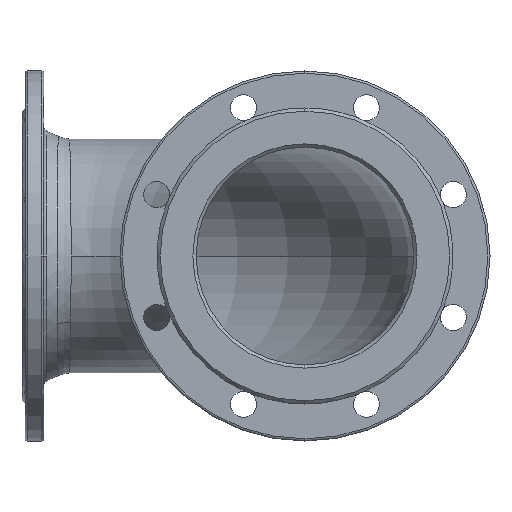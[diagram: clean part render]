
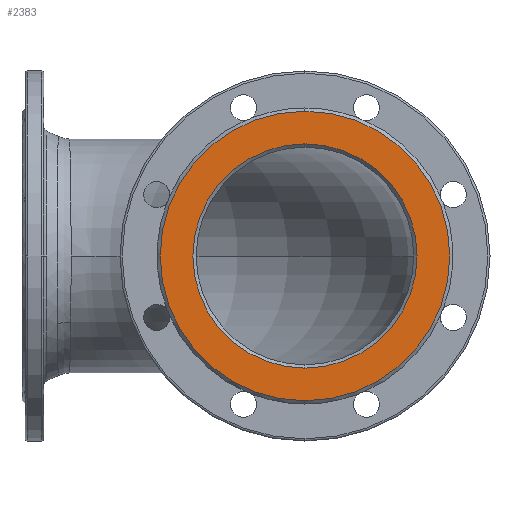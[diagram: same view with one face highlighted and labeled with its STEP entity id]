
A CAD part, left-side view. The second image highlights one B-rep face of the part: STEP entity #2383.
In plain terms, the highlighted planar face has unit normal (-1, 0, 0).
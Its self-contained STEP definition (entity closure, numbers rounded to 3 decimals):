
#155 = EDGE_CURVE ( 'Defeatured_0_5+Defeatured_0_70+Defeatured_0_70+Defeatured_0_70', #1714, #4766, #5353, .T. ) ;
#268 = DIRECTION ( 'NONE',  ( -1., 0., 0. ) ) ;
#282 = AXIS2_PLACEMENT_3D ( 'NONE', #5501, #5044, #1078 ) ;
#455 = PLANE ( 'NONE',  #6163 ) ;
#485 = CIRCLE ( 'NONE', #690, 103. ) ;
#646 = CARTESIAN_POINT ( 'NONE',  ( 0., 0., 0. ) ) ;
#690 = AXIS2_PLACEMENT_3D ( 'NONE', #4147, #5084, #6116 ) ;
#756 = EDGE_CURVE ( 'Defeatured_0_5+Defeatured_0_6+Defeatured_0_6+Defeatured_0_6', #5168, #5236, #1444, .T. ) ;
#814 = AXIS2_PLACEMENT_3D ( 'NONE', #1255, #268, #6196 ) ;
#1078 = DIRECTION ( 'NONE',  ( 0., 0., -1. ) ) ;
#1188 = CARTESIAN_POINT ( 'NONE',  ( 0., 0., -133. ) ) ;
#1255 = CARTESIAN_POINT ( 'NONE',  ( 0., 0., 0. ) ) ;
#1444 = CIRCLE ( 'NONE', #814, 133. ) ;
#1461 = DIRECTION ( 'NONE',  ( 0., 0., -1. ) ) ;
#1714 = VERTEX_POINT ( 'NONE', #4268 ) ;
#2315 = ORIENTED_EDGE ( 'NONE', *, *, #155, .T. ) ;
#2383 = ADVANCED_FACE ( 'Defeatured_0_5', ( #5715, #5888 ), #455, .F. ) ;
#2430 = DIRECTION ( 'NONE',  ( 1., 0., 0. ) ) ;
#2476 = EDGE_CURVE ( 'Defeatured_0_5+Defeatured_0_70+Defeatured_0_70+Defeatured_0_70', #4766, #1714, #485, .T. ) ;
#2625 = DIRECTION ( 'NONE',  ( 0., 0., 1. ) ) ;
#2876 = CARTESIAN_POINT ( 'NONE',  ( 0., 0., 133. ) ) ;
#2904 = ORIENTED_EDGE ( 'NONE', *, *, #4599, .T. ) ;
#4032 = AXIS2_PLACEMENT_3D ( 'NONE', #646, #4565, #2625 ) ;
#4147 = CARTESIAN_POINT ( 'NONE',  ( 0., 0., 0. ) ) ;
#4232 = EDGE_LOOP ( 'NONE', ( #5757, #2904 ) ) ;
#4268 = CARTESIAN_POINT ( 'NONE',  ( 0., 0., 103. ) ) ;
#4402 = CARTESIAN_POINT ( 'NONE',  ( 0., 0., 0. ) ) ;
#4565 = DIRECTION ( 'NONE',  ( -1., 0., 0. ) ) ;
#4599 = EDGE_CURVE ( 'Defeatured_0_5+Defeatured_0_6+Defeatured_0_6+Defeatured_0_6', #5236, #5168, #5158, .T. ) ;
#4766 = VERTEX_POINT ( 'NONE', #6166 ) ;
#5044 = DIRECTION ( 'NONE',  ( 1., 0., 0. ) ) ;
#5084 = DIRECTION ( 'NONE',  ( 1., 0., 0. ) ) ;
#5158 = CIRCLE ( 'NONE', #4032, 133. ) ;
#5168 = VERTEX_POINT ( 'NONE', #1188 ) ;
#5236 = VERTEX_POINT ( 'NONE', #2876 ) ;
#5353 = CIRCLE ( 'NONE', #282, 103. ) ;
#5501 = CARTESIAN_POINT ( 'NONE',  ( 0., 0., 0. ) ) ;
#5715 = FACE_BOUND ( 'NONE', #5912, .T. ) ;
#5757 = ORIENTED_EDGE ( 'NONE', *, *, #756, .T. ) ;
#5888 = FACE_OUTER_BOUND ( 'NONE', #4232, .T. ) ;
#5912 = EDGE_LOOP ( 'NONE', ( #2315, #6242 ) ) ;
#6116 = DIRECTION ( 'NONE',  ( 0., 0., -1. ) ) ;
#6163 = AXIS2_PLACEMENT_3D ( 'NONE', #4402, #2430, #1461 ) ;
#6166 = CARTESIAN_POINT ( 'NONE',  ( 0., 0., -103. ) ) ;
#6196 = DIRECTION ( 'NONE',  ( 0., 0., 1. ) ) ;
#6242 = ORIENTED_EDGE ( 'NONE', *, *, #2476, .T. ) ;
